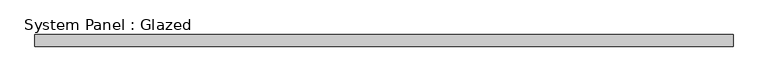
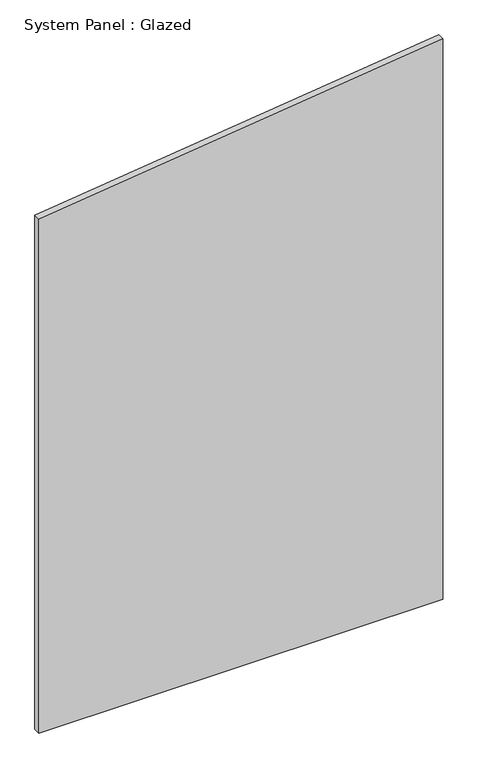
"""IFC4 building model written with IfcOpenShell, lengths in millimetres: plate geometry, System Panel : Glazed."""

from ifc_helpers import new_model, si_unit, frame, origin, place, context, project, spatial, polyline, outline, extrude, source, transform, mapped, element, save


def system_panel_glazed_d0be8725(model_context):
    return source(origin(), model_context, "Body", "SweptSolid", [
        extrude(outline(polyline([(0.0, -726.9631579), (0.0, 726.9631579), (2134.2995746, 726.9631579), (1955.7798703, -726.9631579), (0.0, -726.9631579)])), frame((0.0, 24.5, 0.0), z_axis=(0.0, 1.0, 0.0), x_axis=(0.0, 0.0, 1.0)), (0.0, 0.0, 1.0), 25.0),
    ])


if __name__ == "__main__":
    model = new_model("IFC4")
    model_context = context("Model", 3, world=origin())
    ifc_project = project(units=[si_unit("LENGTHUNIT", "METRE", prefix="MILLI")], contexts=[model_context])
    site = spatial("IfcSite", under=ifc_project)
    building = spatial("IfcBuilding", under=site)
    placement = place(None, origin())
    system_panel_glazed_shape = system_panel_glazed_d0be8725(model_context)
    element("IfcPlate", 1, ObjectType="System Panel : Glazed", at=placement, inside=building, context=model_context, shape_type="MappedRepresentation", body=[
        mapped(system_panel_glazed_shape, transform((0.0, 0.0, 0.0), x_axis=(1.0, 0.0, 0.0), y_axis=(0.0, 1.0, 0.0), z_axis=(0.0, 0.0, 1.0))),
    ])
    save(model, "model.ifc")
